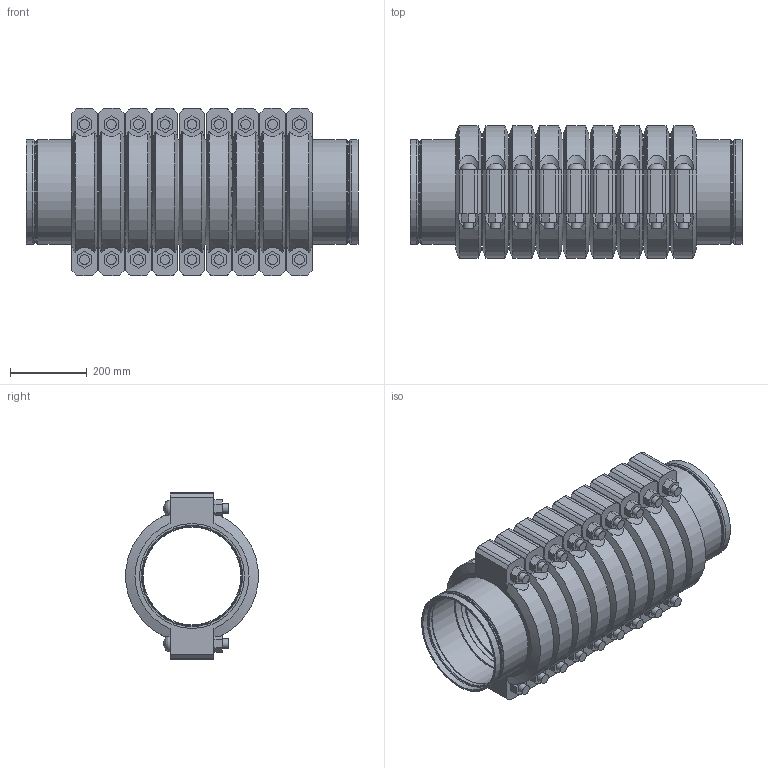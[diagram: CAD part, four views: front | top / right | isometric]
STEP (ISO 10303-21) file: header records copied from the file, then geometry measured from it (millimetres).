
FILE_DESCRIPTION(/* description */ ('VIC STRENGTHIN 100 EXPANSION JOINT 9 COUPLINGS COMPRESSED STYLE E155 (ST1)','CAx-IF Rec.Pracs.---Representation and Presentation of Product Manufacturing Information (PMI)---4.0---2014-10-13'),/* implementation_level */ '2;1');
FILE_NAME(/* name */ 'C:\Users\Vjadhav\AppData\Roaming\Autodesk\ApplicationPlugins\Victaulic.Temp\A705\Victaulic_SS-StrengThin 100_Expansion Joint_Compressed_9 Couplings_Style E155 (ST1)_10 (250).stp',/* time_stamp */ '2021-07-23T12:37:45+05:00',/* author */ ('kkamble'),/* organization */ ('Victaulic'),/* preprocessor_version */ 'ST-DEVELOPER v17.2',/* originating_system */ 'Autodesk Inventor 2019',/* authorisation */ '');
FILE_SCHEMA (('AP242_MANAGED_MODEL_BASED_3D_ENGINEERING_MIM_LF { 1 0 10303 442 1 1 4 }'));
Length unit declared in the file: inch
Products named in the file (4): E155-10.0; E494G-10.0; Nipple-10.0; 077-10.0
Assembly tree (19 placements, depth 2):
  E155-10.0
    E494G-10.0  x2
    Nipple-10.0  x8
    077-10.0  x9
Bounding box: 864.36 x 344.9 x 435.1 mm (x, y, z)
Volume: 31504643.5 mm3; surface area: 4118994.3 mm2
Topology: 19 solids, 37 shells, 679 faces, 1721 edges, 1212 vertices
Faces by surface type: plane 368, cylinder 221, cone 40, torus 32, bspline 18
Full cylindrical faces by diameter (mm): 25.4 x36, 27.432 x18, 254.508 x8, 255.626 x2, 258.724 x2, 263.5 x6, 265.176 x2, 268.275 x18, 273.05 x39
Entity records: 4034 total; most frequent: CARTESIAN_POINT 840, DIRECTION 685, ORIENTED_EDGE 568, AXIS2_PLACEMENT_3D 296, EDGE_CURVE 284, VERTEX_POINT 205, CIRCLE 171, EDGE_LOOP 129
